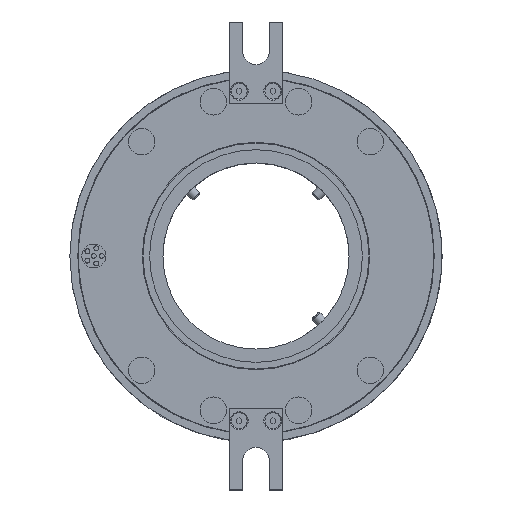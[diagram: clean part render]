
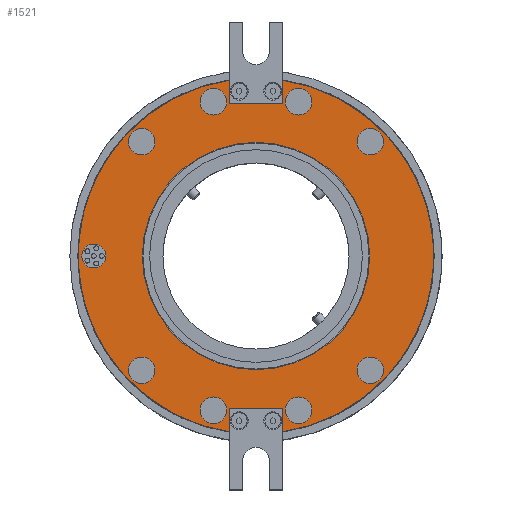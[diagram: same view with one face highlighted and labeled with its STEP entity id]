
A CAD part, top view. The second image highlights one B-rep face of the part: STEP entity #1521.
In plain terms, the highlighted planar face has unit normal (0, 0, 1).
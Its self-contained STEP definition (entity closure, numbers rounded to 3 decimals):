
#178=FACE_BOUND('',#3350,.T.);
#179=FACE_BOUND('',#3351,.T.);
#180=FACE_BOUND('',#3352,.T.);
#181=FACE_BOUND('',#3353,.T.);
#182=FACE_BOUND('',#3354,.T.);
#183=FACE_BOUND('',#3355,.T.);
#184=FACE_BOUND('',#3356,.T.);
#185=FACE_BOUND('',#3357,.T.);
#186=FACE_BOUND('',#3358,.T.);
#187=FACE_BOUND('',#3359,.T.);
#188=FACE_BOUND('',#3360,.T.);
#933=CIRCLE('',#14129,42.75);
#934=CIRCLE('',#14130,66.9);
#935=CIRCLE('',#14131,66.9);
#936=CIRCLE('',#14132,5.);
#937=CIRCLE('',#14133,5.);
#938=CIRCLE('',#14134,5.);
#939=CIRCLE('',#14135,5.);
#940=CIRCLE('',#14136,4.5);
#941=CIRCLE('',#14137,5.);
#942=CIRCLE('',#14138,5.);
#943=CIRCLE('',#14139,5.);
#944=CIRCLE('',#14140,5.);
#1521=ADVANCED_FACE('',(#178,#179,#180,#181,#182,#183,#184,#185,#186,#187,
#188),#2068,.T.);
#2068=PLANE('',#14141);
#3350=EDGE_LOOP('',(#6680));
#3351=EDGE_LOOP('',(#6681,#6682,#6683,#6684,#6685,#6686,#6687,#6688));
#3352=EDGE_LOOP('',(#6689));
#3353=EDGE_LOOP('',(#6690));
#3354=EDGE_LOOP('',(#6691));
#3355=EDGE_LOOP('',(#6692));
#3356=EDGE_LOOP('',(#6693));
#3357=EDGE_LOOP('',(#6694));
#3358=EDGE_LOOP('',(#6695));
#3359=EDGE_LOOP('',(#6696));
#3360=EDGE_LOOP('',(#6697));
#3977=LINE('',#26009,#4563);
#3978=LINE('',#26012,#4564);
#3979=LINE('',#26014,#4565);
#3980=LINE('',#26018,#4566);
#3981=LINE('',#26020,#4567);
#3982=LINE('',#26022,#4568);
#4563=VECTOR('',#15616,1.);
#4564=VECTOR('',#15617,1.);
#4565=VECTOR('',#15618,1.);
#4566=VECTOR('',#15621,1.);
#4567=VECTOR('',#15622,1.);
#4568=VECTOR('',#15623,1.);
#6680=ORIENTED_EDGE('',*,*,#11512,.F.);
#6681=ORIENTED_EDGE('',*,*,#11513,.F.);
#6682=ORIENTED_EDGE('',*,*,#11514,.F.);
#6683=ORIENTED_EDGE('',*,*,#11515,.F.);
#6684=ORIENTED_EDGE('',*,*,#11516,.F.);
#6685=ORIENTED_EDGE('',*,*,#11517,.F.);
#6686=ORIENTED_EDGE('',*,*,#11518,.F.);
#6687=ORIENTED_EDGE('',*,*,#11519,.F.);
#6688=ORIENTED_EDGE('',*,*,#11520,.F.);
#6689=ORIENTED_EDGE('',*,*,#11521,.T.);
#6690=ORIENTED_EDGE('',*,*,#11522,.T.);
#6691=ORIENTED_EDGE('',*,*,#11523,.T.);
#6692=ORIENTED_EDGE('',*,*,#11524,.T.);
#6693=ORIENTED_EDGE('',*,*,#11525,.T.);
#6694=ORIENTED_EDGE('',*,*,#11526,.T.);
#6695=ORIENTED_EDGE('',*,*,#11527,.T.);
#6696=ORIENTED_EDGE('',*,*,#11528,.T.);
#6697=ORIENTED_EDGE('',*,*,#11529,.T.);
#9710=VERTEX_POINT('',#26008);
#9711=VERTEX_POINT('',#26010);
#9712=VERTEX_POINT('',#26011);
#9713=VERTEX_POINT('',#26013);
#9714=VERTEX_POINT('',#26015);
#9715=VERTEX_POINT('',#26017);
#9716=VERTEX_POINT('',#26019);
#9717=VERTEX_POINT('',#26021);
#9718=VERTEX_POINT('',#26023);
#9719=VERTEX_POINT('',#26026);
#9720=VERTEX_POINT('',#26028);
#9721=VERTEX_POINT('',#26030);
#9722=VERTEX_POINT('',#26032);
#9723=VERTEX_POINT('',#26034);
#9724=VERTEX_POINT('',#26036);
#9725=VERTEX_POINT('',#26038);
#9726=VERTEX_POINT('',#26040);
#9727=VERTEX_POINT('',#26042);
#11512=EDGE_CURVE('',#9710,#9710,#933,.T.);
#11513=EDGE_CURVE('',#9711,#9712,#3977,.T.);
#11514=EDGE_CURVE('',#9713,#9711,#3978,.T.);
#11515=EDGE_CURVE('',#9714,#9713,#3979,.T.);
#11516=EDGE_CURVE('',#9715,#9714,#934,.T.);
#11517=EDGE_CURVE('',#9716,#9715,#3980,.T.);
#11518=EDGE_CURVE('',#9717,#9716,#3981,.T.);
#11519=EDGE_CURVE('',#9718,#9717,#3982,.T.);
#11520=EDGE_CURVE('',#9712,#9718,#935,.T.);
#11521=EDGE_CURVE('',#9719,#9719,#936,.T.);
#11522=EDGE_CURVE('',#9720,#9720,#937,.T.);
#11523=EDGE_CURVE('',#9721,#9721,#938,.T.);
#11524=EDGE_CURVE('',#9722,#9722,#939,.T.);
#11525=EDGE_CURVE('',#9723,#9723,#940,.T.);
#11526=EDGE_CURVE('',#9724,#9724,#941,.T.);
#11527=EDGE_CURVE('',#9725,#9725,#942,.T.);
#11528=EDGE_CURVE('',#9726,#9726,#943,.T.);
#11529=EDGE_CURVE('',#9727,#9727,#944,.T.);
#14129=AXIS2_PLACEMENT_3D('',#26007,#15614,#15615);
#14130=AXIS2_PLACEMENT_3D('',#26016,#15619,#15620);
#14131=AXIS2_PLACEMENT_3D('',#26024,#15624,#15625);
#14132=AXIS2_PLACEMENT_3D('',#26025,#15626,#15627);
#14133=AXIS2_PLACEMENT_3D('',#26027,#15628,#15629);
#14134=AXIS2_PLACEMENT_3D('',#26029,#15630,#15631);
#14135=AXIS2_PLACEMENT_3D('',#26031,#15632,#15633);
#14136=AXIS2_PLACEMENT_3D('',#26033,#15634,#15635);
#14137=AXIS2_PLACEMENT_3D('',#26035,#15636,#15637);
#14138=AXIS2_PLACEMENT_3D('',#26037,#15638,#15639);
#14139=AXIS2_PLACEMENT_3D('',#26039,#15640,#15641);
#14140=AXIS2_PLACEMENT_3D('',#26041,#15642,#15643);
#14141=AXIS2_PLACEMENT_3D('',#26043,#15644,#15645);
#15614=DIRECTION('',(0.,0.,1.));
#15615=DIRECTION('',(1.,0.,0.));
#15616=DIRECTION('',(0.,-1.,0.));
#15617=DIRECTION('',(-1.,0.,0.));
#15618=DIRECTION('',(0.,1.,0.));
#15619=DIRECTION('',(0.,0.,-1.));
#15620=DIRECTION('',(1.,0.,0.));
#15621=DIRECTION('',(0.,1.,0.));
#15622=DIRECTION('',(1.,0.,0.));
#15623=DIRECTION('',(0.,-1.,0.));
#15624=DIRECTION('',(0.,0.,-1.));
#15625=DIRECTION('',(1.,0.,0.));
#15626=DIRECTION('',(0.,0.,-1.));
#15627=DIRECTION('',(-1.,0.,0.));
#15628=DIRECTION('',(0.,0.,-1.));
#15629=DIRECTION('',(-1.,0.,0.));
#15630=DIRECTION('',(0.,0.,-1.));
#15631=DIRECTION('',(-1.,0.,0.));
#15632=DIRECTION('',(0.,0.,-1.));
#15633=DIRECTION('',(-1.,0.,0.));
#15634=DIRECTION('',(0.,0.,-1.));
#15635=DIRECTION('',(1.,0.,0.));
#15636=DIRECTION('',(0.,0.,-1.));
#15637=DIRECTION('',(-1.,0.,0.));
#15638=DIRECTION('',(0.,0.,-1.));
#15639=DIRECTION('',(-1.,0.,0.));
#15640=DIRECTION('',(0.,0.,-1.));
#15641=DIRECTION('',(-1.,0.,0.));
#15642=DIRECTION('',(0.,0.,-1.));
#15643=DIRECTION('',(-1.,0.,0.));
#15644=DIRECTION('',(0.,0.,1.));
#15645=DIRECTION('',(1.,0.,0.));
#26007=CARTESIAN_POINT('',(0.,0.,66.5));
#26008=CARTESIAN_POINT('',(42.75,0.,66.5));
#26009=CARTESIAN_POINT('',(-10.,-72.75,66.5));
#26010=CARTESIAN_POINT('',(-10.,-57.5,66.5));
#26011=CARTESIAN_POINT('',(-10.,-66.148,66.5));
#26012=CARTESIAN_POINT('',(0.,-57.5,66.5));
#26013=CARTESIAN_POINT('',(10.,-57.5,66.5));
#26014=CARTESIAN_POINT('',(10.,-72.75,66.5));
#26015=CARTESIAN_POINT('',(10.,-66.148,66.5));
#26016=CARTESIAN_POINT('',(0.,0.,66.5));
#26017=CARTESIAN_POINT('',(10.,66.148,66.5));
#26018=CARTESIAN_POINT('',(10.,72.75,66.5));
#26019=CARTESIAN_POINT('',(10.,57.5,66.5));
#26020=CARTESIAN_POINT('',(0.,57.5,66.5));
#26021=CARTESIAN_POINT('',(-10.,57.5,66.5));
#26022=CARTESIAN_POINT('',(-10.,72.75,66.5));
#26023=CARTESIAN_POINT('',(-10.,66.148,66.5));
#26024=CARTESIAN_POINT('',(0.,0.,66.5));
#26025=CARTESIAN_POINT('',(43.,-43.,66.5));
#26026=CARTESIAN_POINT('',(38.,-43.,66.5));
#26027=CARTESIAN_POINT('',(16.,-58.,66.5));
#26028=CARTESIAN_POINT('',(11.,-58.,66.5));
#26029=CARTESIAN_POINT('',(-16.,-58.,66.5));
#26030=CARTESIAN_POINT('',(-21.,-58.,66.5));
#26031=CARTESIAN_POINT('',(-43.,-43.,66.5));
#26032=CARTESIAN_POINT('',(-48.,-43.,66.5));
#26033=CARTESIAN_POINT('',(-61.,0.,66.5));
#26034=CARTESIAN_POINT('',(-56.5,0.,66.5));
#26035=CARTESIAN_POINT('',(-43.,43.,66.5));
#26036=CARTESIAN_POINT('',(-48.,43.,66.5));
#26037=CARTESIAN_POINT('',(43.,43.,66.5));
#26038=CARTESIAN_POINT('',(38.,43.,66.5));
#26039=CARTESIAN_POINT('',(16.,58.,66.5));
#26040=CARTESIAN_POINT('',(11.,58.,66.5));
#26041=CARTESIAN_POINT('',(-16.,58.,66.5));
#26042=CARTESIAN_POINT('',(-21.,58.,66.5));
#26043=CARTESIAN_POINT('',(0.,0.,66.5));
